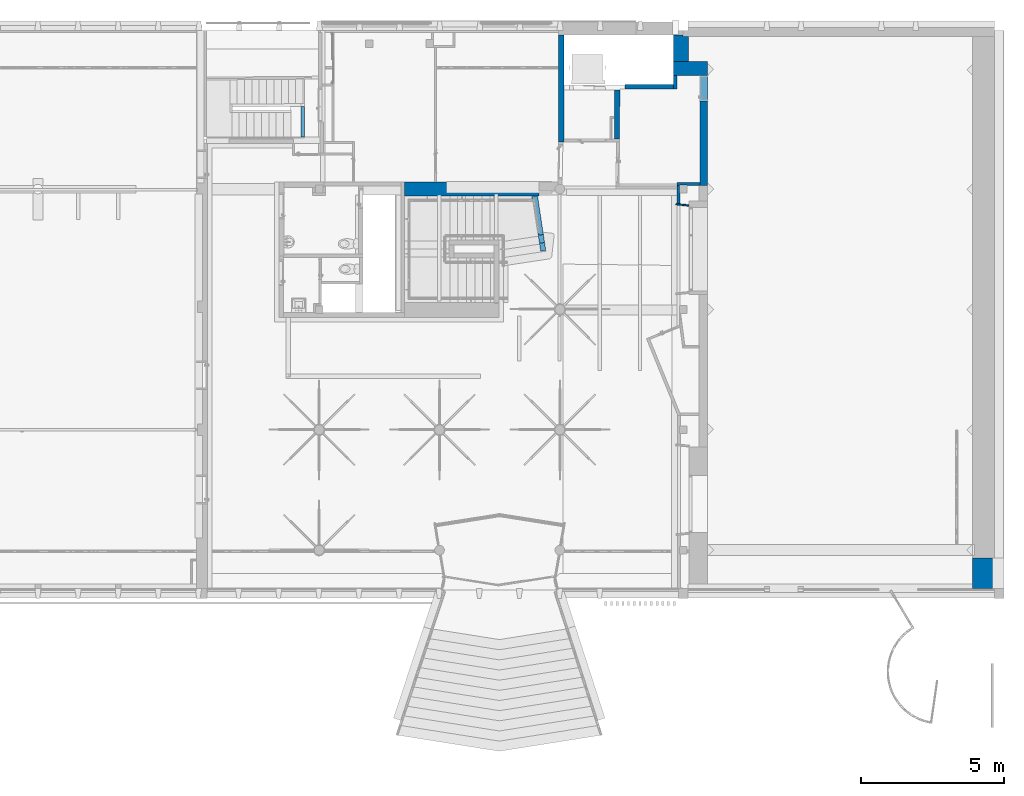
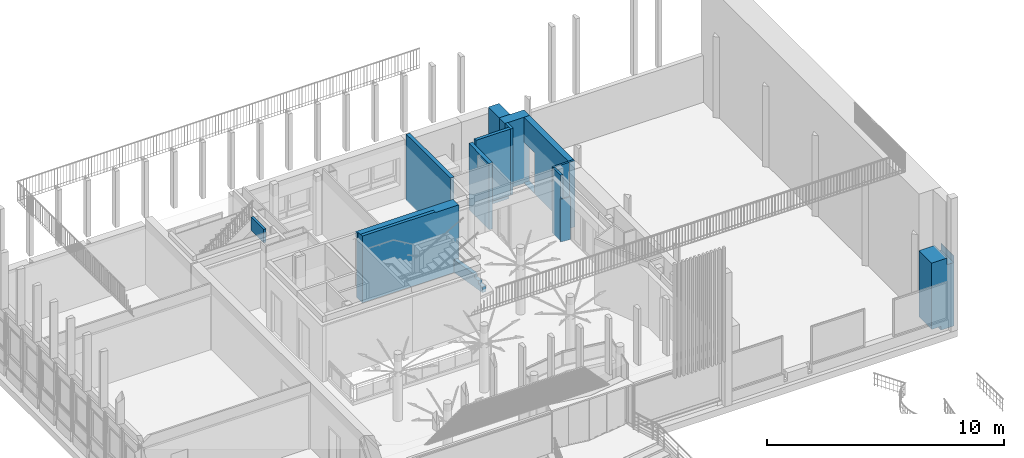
# One storey, part 23 of 65: 13 walls, 1 stair, 2 openings.
"""IFC4 building model written with IfcOpenShell, lengths in metres."""

from ifc_helpers import new_model, entity, si_unit, converted_unit, derived_unit, direction, frame, origin, place, context, subcontext, project, spatial, indexed_curve, outline, extrude, polygons, material, layer, layer_set, type_object, element, save


model = new_model("IFC4")

# Units and contexts
model_context = context("Model", 3, precision=1e-05, world=origin(), true_north=direction((6.12303176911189e-17, 1.0)))
body_context = subcontext(model_context, "Body", "Model", "MODEL_VIEW")
ifc_project = project(units=[si_unit("LENGTHUNIT", "METRE"), si_unit("AREAUNIT", "SQUARE_METRE"), si_unit("VOLUMEUNIT", "CUBIC_METRE"), converted_unit("PLANEANGLEUNIT", "DEGREE", entity("IfcRatioMeasure", 0.0174532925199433), si_unit("PLANEANGLEUNIT", "RADIAN"), dimensions=[0, 0, 0, 0, 0, 0, 0]), si_unit("MASSUNIT", "GRAM", prefix="KILO"), derived_unit("MASSDENSITYUNIT", [(si_unit("MASSUNIT", "GRAM", prefix="KILO"), 1), (si_unit("LENGTHUNIT", "METRE"), -3)]), derived_unit("MOMENTOFINERTIAUNIT", [(si_unit("LENGTHUNIT", "METRE"), 4)]), si_unit("TIMEUNIT", "SECOND"), si_unit("FREQUENCYUNIT", "HERTZ"), si_unit("THERMODYNAMICTEMPERATUREUNIT", "DEGREE_CELSIUS"), derived_unit("THERMALTRANSMITTANCEUNIT", [(si_unit("MASSUNIT", "GRAM", prefix="KILO"), 1), (si_unit("THERMODYNAMICTEMPERATUREUNIT", "KELVIN"), -1), (si_unit("TIMEUNIT", "SECOND"), -3)]), derived_unit("VOLUMETRICFLOWRATEUNIT", [(si_unit("LENGTHUNIT", "METRE"), 3), (si_unit("TIMEUNIT", "SECOND"), -1)]), si_unit("ELECTRICCURRENTUNIT", "AMPERE"), si_unit("ELECTRICVOLTAGEUNIT", "VOLT"), si_unit("POWERUNIT", "WATT"), si_unit("FORCEUNIT", "NEWTON", prefix="KILO"), si_unit("ILLUMINANCEUNIT", "LUX"), si_unit("LUMINOUSFLUXUNIT", "LUMEN"), si_unit("LUMINOUSINTENSITYUNIT", "CANDELA"), derived_unit("USERDEFINED", [(si_unit("MASSUNIT", "GRAM", prefix="KILO"), -1), (si_unit("LENGTHUNIT", "METRE"), -2), (si_unit("TIMEUNIT", "SECOND"), 3), (si_unit("LUMINOUSFLUXUNIT", "LUMEN"), 1)]), derived_unit("LINEARVELOCITYUNIT", [(si_unit("LENGTHUNIT", "METRE"), 1), (si_unit("TIMEUNIT", "SECOND"), -1)]), si_unit("PRESSUREUNIT", "PASCAL"), derived_unit("USERDEFINED", [(si_unit("LENGTHUNIT", "METRE"), -2), (si_unit("MASSUNIT", "GRAM", prefix="KILO"), 1), (si_unit("TIMEUNIT", "SECOND"), -2)]), derived_unit("LINEARFORCEUNIT", [(si_unit("MASSUNIT", "GRAM", prefix="KILO"), 1), (si_unit("LENGTHUNIT", "METRE"), 1), (si_unit("TIMEUNIT", "SECOND"), -2), (si_unit("LENGTHUNIT", "METRE"), -1)]), derived_unit("PLANARFORCEUNIT", [(si_unit("MASSUNIT", "GRAM", prefix="KILO"), 1), (si_unit("LENGTHUNIT", "METRE"), 1), (si_unit("TIMEUNIT", "SECOND"), -2), (si_unit("LENGTHUNIT", "METRE"), -2)])], contexts=[model_context])

# Site, building, storey
site_placement = place(None, origin())
site = spatial("IfcSite", under=ifc_project, at=site_placement, Name="Default", CompositionType="ELEMENT")
building_placement = place(site_placement, origin())
building = spatial("IfcBuilding", under=site, at=building_placement, Name="HOTEL CONSULAIRE BOULOGNE SUR MER", CompositionType="ELEMENT")
storey_placement = place(building_placement, origin())
storey = spatial("IfcBuildingStorey", under=building, at=storey_placement, Name="Niveau 0", CompositionType="ELEMENT", Elevation=1.31981936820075e-13)

# Walls
ifc_material_1 = material(Name="Mur par défaut", Category="Divers")
ifc_layer_1 = layer(ifc_material_1, 0.05, Name="Mur par défaut", Category="Divers")
ifc_layer_set_1 = layer_set([ifc_layer_1], Name="Mur de base:Générique - Int.50")
wall_type_1 = type_object("IfcWallType", Name="Mur de base:Générique - Int.50", PredefinedType="NOTDEFINED", material=ifc_layer_set_1)
wall_1_placement = place(storey_placement, frame((11.2231260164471, -16.1422264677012, -0.0200000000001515), z_axis=(0.0, 0.0, 1.0), x_axis=(0.994521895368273, -0.104528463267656, 0.0)))
element("IfcWall", 1, at=wall_1_placement, inside=storey, type_object=wall_type_1, material=ifc_layer_set_1, Name="Mur de base:Générique - Int.50", ObjectType="Mur de base:Générique - Int.50", PredefinedType="NOTDEFINED", context=body_context, shape_type="Tessellation", body=[
    polygons([(0.458476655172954, -0.0250000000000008, 2.20791504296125), (5.41433564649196e-16, -0.0249999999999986, 2.20791504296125), (2.70716782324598e-15, -0.0249999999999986, 0.0200000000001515), (0.0503791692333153, -0.0249999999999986, 0.0200000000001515), (0.0503791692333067, -0.0249999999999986, 5.4989346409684e-17), (0.458476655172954, -0.0250000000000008, 5.4989346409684e-17), (0.458476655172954, -0.0250000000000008, 0.0200000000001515), (5.41433564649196e-16, 0.0250000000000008, 2.20791504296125), (0.45322144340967, 0.0250000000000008, 2.20791504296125), (0.45322144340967, 0.0250000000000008, 5.4989346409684e-17), (0.137076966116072, 0.0250000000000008, 5.4989346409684e-17), (0.0451239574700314, 0.025000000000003, 5.4989346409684e-17), (0.0451239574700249, 0.025000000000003, 0.0200000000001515), (5.41433564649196e-16, 0.0250000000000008, 0.0200000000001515)], [[[4, 5, 6, 7, 1, 2, 3]], [[13, 14, 8, 9, 10, 11, 12]], [[6, 5, 12, 11, 10]], [[3, 14, 13, 4]], [[2, 1, 9, 8]], [[3, 2, 8, 14]], [[7, 6, 10, 9, 1]], [[13, 12, 5, 4]]], closed=True),
])
ifc_layer_2 = layer(ifc_material_1, 0.18, Name="Mur par défaut", Category="Divers")
ifc_layer_set_2 = layer_set([ifc_layer_2], Name="Mur de base:Générique - Int.180")
wall_type_2 = type_object("IfcWallType", Name="Mur de base:Générique - Int.180", PredefinedType="NOTDEFINED", material=ifc_layer_set_2)
wall_2_placement = place(storey_placement, frame((9.15963579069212, -13.8732213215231, -0.0200000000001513), z_axis=(0.0, 0.0, 1.0), x_axis=(0.00962277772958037, 0.999953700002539, 0.0)))
element("IfcWall", 2, at=wall_2_placement, inside=storey, type_object=wall_type_2, material=ifc_layer_set_2, Name="Mur de base:Générique - Int.180", ObjectType="Mur de base:Générique - Int.180", PredefinedType="NOTDEFINED", context=body_context, shape_type="Tessellation", body=[
    polygons([(0.00173218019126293, -0.0899999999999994, -2.15727435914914e-16), (1.72337585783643, -0.0899999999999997, -2.15727435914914e-16), (1.72337585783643, -0.0899999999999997, 3.40652697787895), (0.00173218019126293, -0.0899999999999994, 3.40652697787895), (1.72164367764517, 0.0899999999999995, -2.15727435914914e-16), (0.776035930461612, 0.0899999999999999, -2.15727435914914e-16), (0.726033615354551, 0.0899999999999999, -2.15727435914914e-16), (0.0, 0.0899999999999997, -2.15727435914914e-16), (0.0, 0.0899999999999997, 3.40652697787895), (1.72164367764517, 0.0899999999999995, 3.40652697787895)], [[[4, 1, 2, 3]], [[10, 5, 6, 7, 8, 9]], [[2, 1, 8, 7, 6, 5]], [[8, 1, 4, 9]], [[3, 2, 5, 10]], [[4, 3, 10, 9]]], closed=True),
])
wall_3_placement = place(storey_placement, frame((6.29898008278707, -15.8418001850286, 0.0), z_axis=(0.0, 0.0, 1.0), x_axis=(0.149353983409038, -0.98878379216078, 0.0)))
element("IfcWall", 3, at=wall_3_placement, inside=storey, type_object=wall_type_2, material=ifc_layer_set_2, Name="Mur de base:Générique - Int.180", ObjectType="Mur de base:Générique - Int.180", PredefinedType="NOTDEFINED", context=body_context, shape_type="Tessellation", body=[
    polygons([(0.0, -0.0899999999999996, 4.29026800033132e-18), (1.94824661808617, -0.0899999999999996, 3.38395986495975e-17), (1.94824661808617, -0.0899999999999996, 0.298), (1.67089631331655, -0.089999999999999, 0.298), (1.67089631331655, -0.089999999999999, 0.472), (1.38889617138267, -0.089999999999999, 0.472), (1.38889617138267, -0.089999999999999, 0.646), (0.0, -0.0899999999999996, 0.646), (0.0271886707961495, 0.0900000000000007, 4.79935741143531e-18), (0.0271886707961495, 0.0900000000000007, 0.646), (1.38889617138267, 0.0900000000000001, 0.646), (1.38889617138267, 0.0900000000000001, 0.472), (1.67089631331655, 0.0900000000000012, 0.472), (1.67089631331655, 0.0900000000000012, 0.298), (1.94824661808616, 0.0900000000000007, 0.298), (1.94824661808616, 0.0900000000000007, 4.07698618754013e-17)], [[[1, 2, 3, 4, 5, 6, 7, 8]], [[15, 16, 9, 10, 11, 12, 13, 14]], [[9, 1, 8, 10]], [[2, 1, 9, 16]], [[8, 7, 11, 10]], [[4, 3, 15, 14]], [[6, 5, 13, 12]], [[3, 2, 16, 15]], [[5, 4, 14, 13]], [[7, 6, 12, 11]]], closed=True),
])
wall_4_placement = place(storey_placement, frame((7.21898026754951, -10.24032416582, -0.0200000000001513), z_axis=(0.0, 0.0, 1.0), x_axis=(0.0, -1.0, 0.0)))
element("IfcWall", 4, at=wall_4_placement, inside=storey, type_object=wall_type_2, material=ifc_layer_set_2, Name="Mur de base:Générique - Int.180", ObjectType="Mur de base:Générique - Int.180", PredefinedType="NOTDEFINED", context=body_context, shape_type="Tessellation", body=[
    polygons([(0.0, -0.0900000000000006, -2.15727435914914e-16), (3.73049397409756, -0.0900000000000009, -2.15727435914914e-16), (3.73049397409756, -0.0900000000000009, 0.0350000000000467), (3.73049397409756, -0.0900000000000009, 3.40652697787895), (0.0, -0.0900000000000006, 3.40652697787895), (3.7320311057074, 0.0899999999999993, -2.15727435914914e-16), (3.6320311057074, 0.0899999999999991, -2.15727435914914e-16), (1.91046714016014, 0.0899999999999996, -2.15727435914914e-16), (1.74886987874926, 0.0899999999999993, -2.15727435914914e-16), (-2.16573425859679e-15, 0.0899999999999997, 0.0), (-2.16573425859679e-15, 0.0899999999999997, 3.40652697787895), (1.73046714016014, 0.0899999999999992, 3.40652697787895), (3.7320311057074, 0.0899999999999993, 3.40652697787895), (3.7320311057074, -0.0151801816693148, -2.15727435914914e-16), (3.7320311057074, -0.0151801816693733, 3.40652697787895)], [[[5, 1, 2, 3, 4]], [[6, 7, 8, 9, 10, 11, 12, 13]], [[1, 10, 9, 8, 7, 6, 14, 2]], [[1, 5, 11, 10]], [[15, 14, 6, 13]], [[14, 15, 4, 3, 2]], [[12, 11, 5, 4, 15, 13]]], closed=True),
])
ifc_layer_3 = layer(ifc_material_1, 0.1, Name="Mur par défaut", Category="Divers")
ifc_layer_set_3 = layer_set([ifc_layer_3], Name="Mur de base:Générique - Int. 100 mm")
wall_type_3 = type_object("IfcWallType", Name="Mur de base:Générique - Int. 100 mm", PredefinedType="NOTDEFINED", material=ifc_layer_set_3)
wall_5_placement = place(storey_placement, frame((12.3264778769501, -15.4358526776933, -0.0200000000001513), z_axis=(0.0, 0.0, 1.0), x_axis=(-1.0, 0.0, 0.0)))
element("IfcWall", 5, at=wall_5_placement, inside=storey, type_object=wall_type_3, material=ifc_layer_set_3, Name="Mur de base:Générique - Int. 100 mm", ObjectType="Mur de base:Générique - Int. 100 mm", PredefinedType="NOTDEFINED", context=body_context, shape_type="Tessellation", body=[
    polygons([(0.269999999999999, 0.0499999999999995, 3.40652697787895), (1.84505581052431e-16, 0.0499999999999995, 3.40652697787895), (1.84505581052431e-16, 0.0499999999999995, 3.4111269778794), (0.299999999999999, 0.0500000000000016, 3.41112697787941), (0.714839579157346, 0.0499999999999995, 3.4111269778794), (0.714839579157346, 0.0499999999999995, -2.15727435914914e-16), (0.299999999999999, 0.0500000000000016, -2.15727435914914e-16), (0.269999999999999, 0.0499999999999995, -2.15727435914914e-16), (0.27, -0.0500000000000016, -2.15727435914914e-16), (1.06441260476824, -0.0499999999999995, -2.15727435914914e-16), (1.06441260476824, -0.0499999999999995, 3.4111269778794), (4.63019011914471e-16, -0.0500000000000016, 3.4111269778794), (4.63019011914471e-16, -0.0500000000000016, 3.40652697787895), (0.27, -0.0500000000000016, 3.40652697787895), (1.06441260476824, 0.0500000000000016, 3.4111269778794), (1.06441260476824, 0.0500000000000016, -2.15727435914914e-16), (0.984839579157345, 0.0499999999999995, 0.0), (0.984839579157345, 0.0499999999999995, 3.4111269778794), (0.714839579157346, 0.0450571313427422, -2.15727435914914e-16), (0.984839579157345, 0.0450571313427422, -2.15727435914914e-16), (0.984839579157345, 0.0450571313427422, 3.4111269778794), (0.714839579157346, 0.0450571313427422, 3.4111269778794)], [[[5, 6, 7, 8, 1, 2, 3, 4]], [[15, 16, 17, 18]], [[19, 22, 21, 20]], [[14, 9, 10, 11, 12, 13]], [[9, 8, 7, 6, 19, 20, 17, 16, 10]], [[2, 1, 14, 13]], [[11, 15, 18, 21, 22, 5, 4, 3, 12]], [[11, 10, 16, 15]], [[19, 6, 5, 22]], [[20, 21, 18, 17]], [[8, 9, 14, 1]], [[3, 2, 13, 12]]], closed=True),
])
wall_6_placement = place(storey_placement, frame((11.3120652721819, -15.4858526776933, -0.0200000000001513), z_axis=(0.0, 0.0, 1.0), x_axis=(0.0, -1.0, 0.0)))
element("IfcWall", 6, at=wall_6_placement, inside=storey, type_object=wall_type_3, material=ifc_layer_set_3, Name="Mur de base:Générique - Int. 100 mm", ObjectType="Mur de base:Générique - Int. 100 mm", PredefinedType="NOTDEFINED", context=body_context, shape_type="Tessellation", body=[
    polygons([(0.0, -0.0500000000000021, -2.15727435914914e-16), (0.030057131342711, -0.050000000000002, -2.15727435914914e-16), (0.130057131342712, -0.0500000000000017, -2.15727435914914e-16), (0.635328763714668, -0.0500000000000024, -2.15727435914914e-16), (0.635328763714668, -0.0500000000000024, 3.41112697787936), (0.130057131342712, -0.0500000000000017, 3.41112697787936), (0.030057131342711, -0.050000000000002, 3.41112697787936), (0.0, -0.0500000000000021, 3.41112697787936), (0.645839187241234, 0.0499999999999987, 3.41112697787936), (0.645839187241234, 0.0499999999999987, -2.15727435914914e-16), (0.265057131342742, 0.0499999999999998, 0.0), (0.265057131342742, 0.0499999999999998, 3.41112697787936), (0.0, 0.029573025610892, -2.15727435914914e-16), (0.265057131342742, 0.0295730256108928, -2.15727435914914e-16), (0.265057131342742, 0.0295730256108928, 3.41112697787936), (0.0, 0.029573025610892, 3.41112697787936)], [[[1, 2, 3, 4, 5, 6, 7, 8]], [[9, 10, 11, 12]], [[13, 16, 15, 14]], [[3, 2, 1, 13, 14, 11, 10, 4]], [[6, 5, 9, 12, 15, 16, 8, 7]], [[13, 1, 8, 16]], [[14, 15, 12, 11]], [[4, 10, 9, 5]]], closed=True),
])
ifc_layer_4 = layer(ifc_material_1, 0.13, Name="Mur par défaut", Category="Divers")
ifc_layer_set_4 = layer_set([ifc_layer_4], Name="Mur de base:Générique - Int. 130 mm")
wall_type_4 = type_object("IfcWallType", Name="Mur de base:Générique - Int. 130 mm", PredefinedType="NOTDEFINED", material=ifc_layer_set_4)
wall_7_placement = place(storey_placement, frame((11.1961975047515, -12.1207913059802, -0.0200000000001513), z_axis=(0.0, 0.0, 1.0), x_axis=(0.0, 1.0, 0.0)))
element("IfcWall", 7, at=wall_7_placement, inside=storey, type_object=wall_type_4, material=ifc_layer_set_4, Name="Mur de base:Générique - Int. 130 mm", ObjectType="Mur de base:Générique - Int. 130 mm", PredefinedType="NOTDEFINED", context=body_context, shape_type="Tessellation", body=[
    polygons([(0.471597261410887, -0.0650000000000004, 3.41112697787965), (0.0, -0.0650000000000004, 3.41112697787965), (0.0, -0.0650000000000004, 0.0400000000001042), (0.00159726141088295, -0.0650000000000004, 0.0400000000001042), (0.00159726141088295, -0.0650000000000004, -2.15727435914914e-16), (0.471597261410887, -0.0650000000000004, -2.15727435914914e-16), (0.471597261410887, -0.0650000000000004, 0.0400000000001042), (0.0, 0.0650000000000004, 3.41112697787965), (0.150000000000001, 0.0650000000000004, 3.41112697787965), (0.471597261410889, 0.0650000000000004, 3.41112697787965), (0.471597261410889, 0.0650000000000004, 3.40652697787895), (0.471597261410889, 0.0650000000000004, -2.15727435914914e-16), (0.131597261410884, 0.0650000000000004, -2.15727435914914e-16), (0.00159726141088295, 0.0650000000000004, -2.15727435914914e-16), (0.00159726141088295, 0.0650000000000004, 0.0400000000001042), (0.0, 0.0650000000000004, 0.0400000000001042)], [[[4, 5, 6, 7, 1, 2, 3]], [[9, 10, 11, 12, 13, 14, 15, 16, 8]], [[6, 5, 14, 13, 12]], [[16, 15, 4, 3]], [[2, 1, 10, 9, 8]], [[7, 6, 12, 11, 10, 1]], [[8, 16, 3, 2]], [[15, 14, 5, 4]]], closed=True),
])
ifc_layer_5 = layer(ifc_material_1, 0.15, Name="Mur par défaut", Category="Divers")
ifc_layer_set_5 = layer_set([ifc_layer_5], Name="Mur de base:Générique - Int. 150 mm")
wall_type_5 = type_object("IfcWallType", Name="Mur de base:Générique - Int. 150 mm", PredefinedType="NOTDEFINED", material=ifc_layer_set_5)
wall_8_placement = place(storey_placement, frame((9.4465123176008, -12.0457913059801, -0.27)))
element("IfcWall", 8, at=wall_8_placement, inside=storey, type_object=wall_type_5, material=ifc_layer_set_5, Name="Mur de base:Générique - Int. 150 mm", ObjectType="Mur de base:Générique - Int. 150 mm", PredefinedType="NOTDEFINED", context=body_context, shape_type="Tessellation", body=[
    polygons([(1.68468518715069, -0.0750000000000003, 3.66112697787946), (-7.92880643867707e-17, -0.0750000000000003, 3.66112697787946), (-7.92880643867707e-17, -0.0750000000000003, 0.25), (1.68468518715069, -0.0750000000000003, 0.25), (1.68468518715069, -0.0750000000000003, 0.289999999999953), (1.68468518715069, 0.0750000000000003, 2.70716782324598e-16), (0.00144348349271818, 0.0750000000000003, 2.70716782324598e-16), (0.00144348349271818, 0.0750000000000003, 3.66112697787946), (1.68468518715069, 0.0750000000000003, 3.66112697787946), (1.68468518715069, 0.0565972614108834, 2.70716782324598e-16), (0.00126638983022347, 0.0565972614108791, 2.70716782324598e-16), (0.00126638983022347, 0.0565972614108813, 0.25), (1.68468518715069, -0.0734027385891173, 0.25), (1.68468518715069, 0.0565972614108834, 0.25)], [[[2, 3, 4, 5, 1]], [[12, 11, 10, 14]], [[9, 6, 7, 8]], [[10, 11, 7, 6]], [[3, 12, 14, 13, 4]], [[2, 1, 9, 8]], [[12, 3, 2, 8, 7, 11]], [[14, 10, 6, 9, 1, 5, 4, 13]]], closed=True),
])
ifc_layer_6 = layer(ifc_material_1, 0.48, Name="Mur par défaut", Category="Divers")
ifc_layer_set_6 = layer_set([ifc_layer_6], Name="Mur de base:Générique - Int. 480 mm")
wall_type_6 = type_object("IfcWallType", Name="Mur de base:Générique - Int. 480 mm", PredefinedType="NOTDEFINED", material=ifc_layer_set_6)
wall_9_placement = place(storey_placement, frame((6.45123844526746, -15.6152420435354, -0.0200000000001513), z_axis=(0.0, 0.0, 1.0), x_axis=(-1.0, 0.0, 0.0)))
element("IfcWall", 9, at=wall_9_placement, inside=storey, type_object=wall_type_6, material=ifc_layer_set_6, Name="Mur de base:Générique - Int. 480 mm", ObjectType="Mur de base:Générique - Int. 480 mm", PredefinedType="NOTDEFINED", context=body_context, shape_type="Tessellation", body=[
    polygons([(6.36207261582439e-16, -0.24, -2.15727435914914e-16), (3.57888730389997, -0.24, -2.15727435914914e-16), (3.64888730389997, -0.24, -2.15727435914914e-16), (4.6937671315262, -0.24, -2.15727435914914e-16), (4.6937671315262, -0.24, 3.14470529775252), (4.7587671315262, -0.24, 3.14470529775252), (4.7587671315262, -0.24, 3.40652697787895), (3.64888730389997, -0.24, 3.40652697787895), (3.57888730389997, -0.24, 3.40652697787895), (6.36207261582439e-16, -0.24, 3.40652697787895), (4.6937671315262, 0.24, 3.44152697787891), (4.6937671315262, 0.24, -2.15727435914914e-16), (6.57142515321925e-16, 0.24, 0.0), (6.57142515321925e-16, 0.24, 3.40652697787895), (1.13751070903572, 0.24, 3.40652697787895), (1.13751070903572, 0.24, 3.44152697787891), (1.05536696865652e-15, 0.0599999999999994, -2.15727435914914e-16), (1.13751070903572, 0.0850000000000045, 3.44152697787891), (4.6937671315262, 0.085000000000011, 3.44152697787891), (4.7587671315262, -0.122363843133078, 3.14470529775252), (4.7587671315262, -0.122363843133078, 3.40652697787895), (4.6937671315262, -0.122363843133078, 3.14470529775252), (4.6937671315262, 0.085000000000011, 3.40652697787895), (4.6937671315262, -0.122363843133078, 3.40652697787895), (1.13751070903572, 0.0850000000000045, 3.40652697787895)], [[[10, 1, 2, 3, 4, 5, 6, 7, 8, 9]], [[19, 18, 25, 23]], [[11, 12, 13, 14, 15, 16]], [[20, 22, 24, 21]], [[4, 3, 2, 1, 17, 13, 12]], [[22, 20, 6, 5]], [[18, 19, 11, 16]], [[9, 8, 7, 21, 24, 23, 25, 15, 14, 10]], [[1, 10, 14, 13, 17]], [[16, 15, 25, 18]], [[7, 6, 20, 21]], [[23, 24, 22, 5, 4, 12, 11, 19]]], closed=True),
])
ifc_layer_7 = layer(ifc_material_1, 0.53, Name="Mur par défaut", Category="Divers")
ifc_layer_set_7 = layer_set([ifc_layer_7], Name="Mur de base:Générique - Int.530")
wall_type_7 = type_object("IfcWallType", Name="Mur de base:Générique - Int.530", PredefinedType="NOTDEFINED", material=ifc_layer_set_7)
wall_10_placement = place(storey_placement, frame((11.3961975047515, -11.1691940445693, -0.27), z_axis=(0.0, 0.0, 1.0), x_axis=(0.0, 1.0, 0.0)))
element("IfcWall", 10, at=wall_10_placement, inside=storey, type_object=wall_type_7, material=ifc_layer_set_7, Name="Mur de base:Générique - Int.530", ObjectType="Mur de base:Générique - Int.530", PredefinedType="NOTDEFINED", context=body_context, shape_type="Tessellation", body=[
    polygons([(0.92886987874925, -0.265, 3.6565269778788), (0.0, -0.265, 3.6565269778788), (0.0, -0.265, 0.269999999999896), (0.0, -0.265, 0.25), (0.875176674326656, -0.265, 0.25), (0.875176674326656, -0.265, 0.269999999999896), (0.875176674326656, -0.265, 2.6815269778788), (0.928869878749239, -0.265, 2.6815269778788), (0.92886987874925, -0.265, 3.3211047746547), (0.928869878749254, 0.265, 2.36877184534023e-16), (4.33146851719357e-15, 0.265, 2.36877184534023e-16), (4.33146851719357e-15, 0.265, 0.249999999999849), (4.33146851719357e-15, 0.265, 3.6565269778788), (0.928869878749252, 0.265, 3.6565269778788), (0.928869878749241, 0.265, 3.3211047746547), (0.928869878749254, 0.193000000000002, 2.36877184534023e-16), (4.33146851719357e-15, 0.193000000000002, 2.36877184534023e-16), (0.92886987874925, -0.252280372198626, 3.6565269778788), (0.92886987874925, -0.0804407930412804, 3.6565269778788), (2.16573425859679e-15, 0.193000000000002, 0.25), (0.928869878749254, 0.193000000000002, 0.25), (0.928869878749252, -0.0647610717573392, 0.25), (0.875176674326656, -0.0647610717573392, 0.25), (0.875176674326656, -0.064761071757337, 2.6815269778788), (0.928869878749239, -0.0647610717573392, 2.6815269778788)], [[[7, 8, 9, 1, 2, 3, 4, 5, 6]], [[21, 20, 17, 16]], [[24, 23, 22, 25]], [[15, 10, 11, 12, 13, 14]], [[16, 17, 11, 10]], [[5, 4, 20, 21, 22, 23]], [[7, 24, 25, 8]], [[2, 1, 18, 19, 14, 13]], [[3, 2, 13, 12, 11, 17, 20, 4]], [[6, 5, 23, 24, 7]], [[19, 18, 1, 9, 8, 25, 22, 21, 16, 10, 15, 14]]], closed=True),
])

# Wall, opening
ifc_layer_8 = layer(ifc_material_1, 0.48, Name="Mur par défaut", Category="Divers")
ifc_layer_set_8 = layer_set([ifc_layer_8], Name="Mur de base:Générique - Ext.480 mm")
wall_type_8 = type_object("IfcWallType", Name="Mur de base:Générique - Ext.480 mm", PredefinedType="NOTDEFINED", material=ifc_layer_set_8)
wall_11_placement = place(storey_placement, frame((12.3264778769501, -11.4091940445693, -0.0200000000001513), z_axis=(0.0, 0.0, 1.0), x_axis=(-1.0, 0.0, 0.0)))
wall_11 = element("IfcWall", 11, at=wall_11_placement, inside=storey, type_object=wall_type_8, material=ifc_layer_set_8, Name="Mur de base:Générique - Ext.480 mm", ObjectType="Mur de base:Générique - Ext.480 mm", PredefinedType="NOTDEFINED", context=body_context, shape_type="Tessellation", body=[
    polygons([(1.19528037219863, -0.240000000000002, 3.40652697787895), (0.665280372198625, -0.24, 3.40652697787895), (4.36678987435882e-15, -0.24, 3.40652697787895), (4.36678987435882e-15, -0.24, 0.0200000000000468), (4.36678987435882e-15, -0.24, -2.15727435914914e-16), (0.665280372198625, -0.24, -2.15727435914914e-16), (1.12328037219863, -0.24, -2.15727435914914e-16), (1.19528037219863, -0.240000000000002, -2.15727435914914e-16), (1.19528037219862, 0.239999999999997, -2.15727435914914e-16), (1.06528037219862, 0.24, -2.15727435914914e-16), (0.270000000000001, 0.24, -2.15727435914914e-16), (1.48303914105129e-15, 0.24, -2.15727435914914e-16), (1.48303914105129e-15, 0.24, 0.0200000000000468), (1.48303914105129e-15, 0.24, 0.0400000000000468), (0.270000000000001, 0.24, 0.0400000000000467), (0.270000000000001, 0.24, 2.11500000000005), (1.48303914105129e-15, 0.24, 2.11500000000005), (1.48303914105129e-15, 0.24, 3.40652697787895), (0.270000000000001, 0.24, 3.40652697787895), (1.19528037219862, 0.239999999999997, 3.40652697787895), (1.49070858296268e-15, 0.238723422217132, 2.11500000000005), (1.49070858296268e-15, 0.238723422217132, 0.0400000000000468), (0.270000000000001, 0.238723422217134, 0.0400000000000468), (0.270000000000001, 0.238723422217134, 2.11500000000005)], [[[5, 6, 7, 8, 1, 2, 3, 4]], [[10, 11, 12, 13, 14, 15, 16, 17, 18, 19, 20, 9]], [[23, 22, 21, 24]], [[6, 5, 12, 11, 10, 9, 8, 7]], [[16, 24, 21, 17]], [[2, 1, 20, 19, 18, 3]], [[23, 15, 14, 22]], [[1, 8, 9, 20]], [[14, 13, 12, 5, 4, 3, 18, 17, 21, 22]], [[23, 24, 16, 15]]], closed=True),
])
opening_1_placement = place(wall_11_placement, frame((0.269999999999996, 1.13872342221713, 0.0400000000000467)))
element("IfcOpeningElement", 12, at=opening_1_placement, cuts=wall_11, Name="Mur de base:Générique - Ext.480 mm", ObjectType="Opening", PredefinedType="OPENING", context=body_context, shape_type="SweptSolid", body=[
    extrude(outline(indexed_curve([(-0.135, -1.0375), (0.135, -1.0375), (0.135, 1.0375), (-0.135, 1.0375), (-0.135, -1.0375)], self_intersect=False)), frame((-0.134999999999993, -0.900000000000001, 1.0375), z_axis=(0.0, 1.0, 0.0), x_axis=(1.0, 0.0, 0.0)), (0.0, 0.0, 1.0), 0.899999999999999),
])

ifc_layer_9 = layer(ifc_material_1, 0.27, Name="Mur par défaut", Category="Divers")
ifc_layer_set_9 = layer_set([ifc_layer_9], Name="Mur de base:Générique - Ext. 270 mm")
wall_type_9 = type_object("IfcWallType", Name="Mur de base:Générique - Ext. 270 mm", PredefinedType="NOTDEFINED", material=ifc_layer_set_9)
wall_12_placement = place(storey_placement, frame((12.1914778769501, -15.4858526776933, -0.0200000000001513), z_axis=(0.0, 0.0, 1.0), x_axis=(0.0, 1.0, 0.0)))
wall_12 = element("IfcWall", 13, at=wall_12_placement, inside=storey, type_object=wall_type_9, material=ifc_layer_set_9, Name="Mur de base:Générique - Ext. 270 mm", ObjectType="Mur de base:Générique - Ext. 270 mm", PredefinedType="NOTDEFINED", context=body_context, shape_type="Tessellation", body=[
    polygons([(3.836658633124, 0.134999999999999, 3.40652697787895), (3.836658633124, -0.135, 3.40652697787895), (3.836658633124, -0.135, 2.11500000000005), (3.836658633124, 0.134999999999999, 2.11500000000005), (0.0, -0.135, -2.15727435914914e-16), (3.836658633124, -0.135, -2.15727435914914e-16), (3.836658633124, -0.135, 0.0400000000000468), (2.93793521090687, -0.135000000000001, 0.0400000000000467), (2.93793521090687, -0.135000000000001, 2.11500000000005), (0.100000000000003, -0.135, 3.40652697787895), (0.0, -0.135, 3.40652697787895), (3.836658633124, 0.134999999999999, -2.15727435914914e-16), (0.0999999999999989, 0.134999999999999, -2.15727435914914e-16), (-2.16573425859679e-15, 0.134999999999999, -2.15727435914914e-16), (-2.16573425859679e-15, 0.134999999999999, 3.40652697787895), (0.0999999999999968, 0.134999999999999, 3.40652697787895), (2.93793521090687, 0.134999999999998, 2.11500000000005), (2.93793521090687, 0.134999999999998, 0.0400000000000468), (3.836658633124, 0.134999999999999, 0.0400000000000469)], [[[3, 4, 1, 2]], [[18, 17, 9, 8]], [[7, 6, 12, 19]], [[5, 6, 7, 8, 9, 3, 2, 10, 11]], [[19, 12, 13, 14, 15, 16, 1, 4, 17, 18]], [[6, 5, 14, 13, 12]], [[17, 4, 3, 9]], [[10, 2, 1, 16, 15, 11]], [[18, 8, 7, 19]], [[15, 14, 5, 11]]], closed=True),
])
opening_2_placement = place(wall_12_placement, frame((2.93793521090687, -0.135, 0.0400000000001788)))
element("IfcOpeningElement", 14, at=opening_2_placement, cuts=wall_12, Name="Int. Simple:PP (0.83m x 2.04m):1", ObjectType="Opening", PredefinedType="OPENING", context=body_context, shape_type="SweptSolid", body=[
    extrude(outline(indexed_curve([(0.0, 0.9), (0.0, 0.0), (2.075, 0.0), (2.075, 0.9), (0.0, 0.9)], self_intersect=False)), frame((0.0, 0.0, 0.0), z_axis=(0.0, 1.0, 0.0), x_axis=(0.0, 0.0, 1.0)), (0.0, 0.0, 1.0), 0.27),
])

# Wall
ifc_layer_10 = layer(ifc_material_1, 1.09, Name="Mur par défaut", Category="Divers")
ifc_layer_set_10 = layer_set([ifc_layer_10], Name="Mur de base:Générique - Ext.1.09m")
wall_type_10 = type_object("IfcWallType", Name="Mur de base:Générique - Ext.1.09m", PredefinedType="NOTDEFINED", material=ifc_layer_set_10)
wall_13_placement = place(storey_placement, frame((22.122935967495, -28.480909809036, -0.220000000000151), z_axis=(0.0, 0.0, 1.0), x_axis=(0.0, -1.0, 0.0)))
element("IfcWall", 15, at=wall_13_placement, inside=storey, type_object=wall_type_10, material=ifc_layer_set_10, Name="Mur de base:Générique - Ext.1.09m", ObjectType="Mur de base:Générique - Ext.1.09m", PredefinedType="NOTDEFINED", context=body_context, shape_type="Tessellation", body=[
    polygons([(1.07315729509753, 0.545000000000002, 3.61112697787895), (0.0, 0.545000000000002, 3.61112697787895), (0.0, 0.53570233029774, 3.61112697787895), (1.07315729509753, 0.535702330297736, 3.61112697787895), (1.07315729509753, -0.544999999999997, 3.61112697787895), (0.0, -0.544999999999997, 3.61112697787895), (0.0, -0.544999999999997, 0.200000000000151), (1.0571572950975, -0.544999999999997, 0.200000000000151), (1.07315729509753, -0.544999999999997, 0.200000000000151), (1.07315729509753, 0.545000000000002, -2.03037586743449e-16), (0.0, 0.545000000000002, 0.0), (0.0, -0.0899999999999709, 0.200000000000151), (1.07315729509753, -0.0899999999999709, 0.200000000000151), (0.0, -0.0899999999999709, 0.0), (1.07315729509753, -0.0899999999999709, -2.03037586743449e-16), (0.0, 0.535702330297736, 3.27112697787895), (1.07315729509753, 0.535702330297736, 3.27112697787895), (0.0, 0.215702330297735, 3.27112697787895), (1.07315729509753, 0.215702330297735, 3.27112697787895), (0.0, 0.215702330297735, 3.61112697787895), (1.07315729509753, 0.215702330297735, 3.61112697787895), (0.0, 0.145000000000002, 3.61112697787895)], [[[3, 4, 1, 2]], [[17, 16, 18, 19]], [[6, 5, 21, 20, 22]], [[6, 7, 8, 9, 5]], [[12, 14, 15, 13]], [[4, 3, 16, 17]], [[1, 10, 11, 2]], [[21, 19, 18, 20]], [[8, 7, 12, 13, 9]], [[15, 14, 11, 10]], [[9, 13, 15, 10, 1, 4, 17, 19, 21, 5]], [[18, 16, 3, 2, 11, 14, 12, 7, 6, 22, 20]]], closed=True),
])

# Stair
ifc_material_2 = material(Name="Finition Peinture - Blanc satiné", Category="Peinture")
stair_type = type_object("IfcStairType", Name="Limon 6:Limon 6", PredefinedType="NOTDEFINED")
stair_placement = place(storey_placement, frame((-1.85761931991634, -13.7909141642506, 3.0819251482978)))
element("IfcStair", 16, at=stair_placement, inside=storey, type_object=stair_type, material=ifc_material_2, Name="Limon 6:Limon 6", ObjectType="Limon 6:Limon 6", PredefinedType="NOTDEFINED", context=body_context, shape_type="SweptSolid", body=[
    extrude(outline(indexed_curve([(-0.531145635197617, -0.0574098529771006), (0.531631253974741, -0.0574098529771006), (0.531631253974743, 0.0574098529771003), (-0.532116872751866, 0.0574098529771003), (-0.531145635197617, -0.0574098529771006)], self_intersect=False)), frame((0.0574098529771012, 0.531631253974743, 0.0), z_axis=(0.0, 0.0, 1.0), x_axis=(0.0, -1.0, 0.0)), (0.0, 0.0, 1.0), 0.690903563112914),
])

save(model, "model.ifc")
